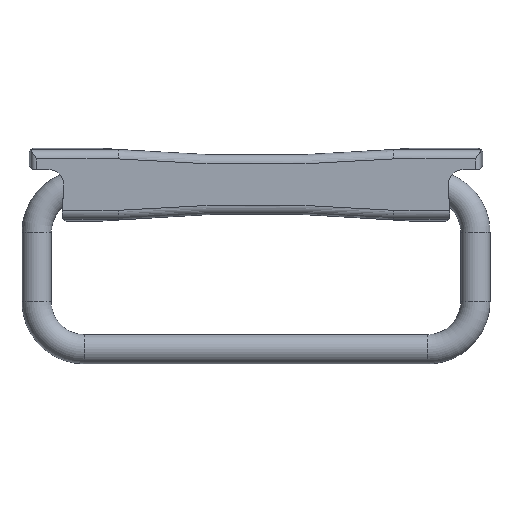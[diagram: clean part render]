
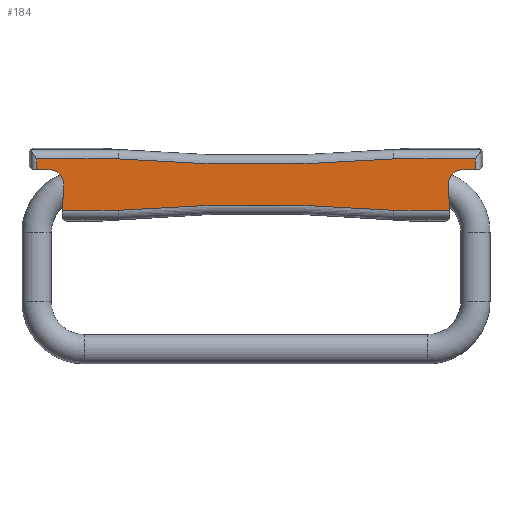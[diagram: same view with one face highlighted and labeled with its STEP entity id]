
A CAD part, top view. The second image highlights one B-rep face of the part: STEP entity #184.
In plain terms, the highlighted planar face has unit normal (0, 0, 1).
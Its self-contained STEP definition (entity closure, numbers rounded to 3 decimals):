
#184 = ADVANCED_FACE( '', ( #269 ), #270, .T. );
#269 = FACE_OUTER_BOUND( '', #421, .T. );
#270 = PLANE( '', #422 );
#421 = EDGE_LOOP( '', ( #658, #659, #660, #661, #662, #663, #664, #665, #666, #667, #668, #669, #670, #671 ) );
#422 = AXIS2_PLACEMENT_3D( '', #672, #673, #674 );
#658 = ORIENTED_EDGE( '', *, *, #1121, .T. );
#659 = ORIENTED_EDGE( '', *, *, #1124, .F. );
#660 = ORIENTED_EDGE( '', *, *, #1105, .T. );
#661 = ORIENTED_EDGE( '', *, *, #1104, .F. );
#662 = ORIENTED_EDGE( '', *, *, #1119, .T. );
#663 = ORIENTED_EDGE( '', *, *, #1125, .F. );
#664 = ORIENTED_EDGE( '', *, *, #1126, .T. );
#665 = ORIENTED_EDGE( '', *, *, #1127, .F. );
#666 = ORIENTED_EDGE( '', *, *, #1128, .T. );
#667 = ORIENTED_EDGE( '', *, *, #1129, .F. );
#668 = ORIENTED_EDGE( '', *, *, #1130, .T. );
#669 = ORIENTED_EDGE( '', *, *, #1087, .T. );
#670 = ORIENTED_EDGE( '', *, *, #1131, .T. );
#671 = ORIENTED_EDGE( '', *, *, #1080, .F. );
#672 = CARTESIAN_POINT( '', ( -60.5, -4.4, 16. ) );
#673 = DIRECTION( '', ( 0., 0., 1. ) );
#674 = DIRECTION( '', ( 1., 0., 0. ) );
#1080 = EDGE_CURVE( '', #1256, #1248, #1258, .T. );
#1087 = EDGE_CURVE( '', #1272, #1269, #1273, .T. );
#1104 = EDGE_CURVE( '', #1302, #1297, #1304, .T. );
#1105 = EDGE_CURVE( '', #1305, #1297, #1306, .T. );
#1119 = EDGE_CURVE( '', #1302, #1328, #1330, .T. );
#1121 = EDGE_CURVE( '', #1256, #1332, #1334, .T. );
#1124 = EDGE_CURVE( '', #1305, #1332, #1338, .T. );
#1125 = EDGE_CURVE( '', #1339, #1328, #1340, .T. );
#1126 = EDGE_CURVE( '', #1339, #1341, #1342, .T. );
#1127 = EDGE_CURVE( '', #1343, #1341, #1344, .T. );
#1128 = EDGE_CURVE( '', #1343, #1345, #1346, .T. );
#1129 = EDGE_CURVE( '', #1347, #1345, #1348, .T. );
#1130 = EDGE_CURVE( '', #1347, #1272, #1349, .T. );
#1131 = EDGE_CURVE( '', #1269, #1248, #1350, .T. );
#1248 = VERTEX_POINT( '', #1621 );
#1256 = VERTEX_POINT( '', #1650 );
#1258 = CIRCLE( '', #1667, 465.75 );
#1269 = VERTEX_POINT( '', #1683 );
#1272 = VERTEX_POINT( '', #1697 );
#1273 = LINE( '', #1698, #1699 );
#1297 = VERTEX_POINT( '', #1751 );
#1302 = VERTEX_POINT( '', #1776 );
#1304 = CIRCLE( '', #1779, 4.034 );
#1305 = VERTEX_POINT( '', #1780 );
#1306 = LINE( '', #1781, #1782 );
#1328 = VERTEX_POINT( '', #1862 );
#1330 = LINE( '', #1864, #1865 );
#1332 = VERTEX_POINT( '', #1867 );
#1334 = LINE( '', #1880, #1881 );
#1338 = LINE( '', #1886, #1887 );
#1339 = VERTEX_POINT( '', #1888 );
#1340 = LINE( '', #1889, #1890 );
#1341 = VERTEX_POINT( '', #1891 );
#1342 = CIRCLE( '', #1892, 465.75 );
#1343 = VERTEX_POINT( '', #1893 );
#1344 = LINE( '', #1894, #1895 );
#1345 = VERTEX_POINT( '', #1896 );
#1346 = LINE( '', #1897, #1898 );
#1347 = VERTEX_POINT( '', #1899 );
#1348 = CIRCLE( '', #1900, 4.034 );
#1349 = LINE( '', #1901, #1902 );
#1350 = LINE( '', #1903, #1904 );
#1621 = CARTESIAN_POINT( '', ( 37.684, -2.973, 16. ) );
#1650 = CARTESIAN_POINT( '', ( -37.684, -2.973, 16. ) );
#1667 = AXIS2_PLACEMENT_3D( '', #2160, #2161, #2162 );
#1683 = CARTESIAN_POINT( '', ( 59.993, -2.973, 16. ) );
#1697 = CARTESIAN_POINT( '', ( 59.993, -5.9, 16. ) );
#1698 = CARTESIAN_POINT( '', ( 59.993, -20., 16. ) );
#1699 = VECTOR( '', #2171, 1000. );
#1751 = CARTESIAN_POINT( '', ( -56.648, -5.9, 16. ) );
#1776 = CARTESIAN_POINT( '', ( -52.618, -10.119, 16. ) );
#1779 = AXIS2_PLACEMENT_3D( '', #2198, #2199, #2200 );
#1780 = CARTESIAN_POINT( '', ( -59.993, -5.9, 16. ) );
#1781 = CARTESIAN_POINT( '', ( -60.5, -5.9, 16. ) );
#1782 = VECTOR( '', #2201, 1000. );
#1862 = CARTESIAN_POINT( '', ( -52.934, -17.027, 16. ) );
#1864 = CARTESIAN_POINT( '', ( -52.618, -10.119, 16. ) );
#1865 = VECTOR( '', #2216, 1000. );
#1867 = CARTESIAN_POINT( '', ( -59.993, -2.973, 16. ) );
#1880 = CARTESIAN_POINT( '', ( 62.5, -2.973, 16. ) );
#1881 = VECTOR( '', #2217, 1000. );
#1886 = CARTESIAN_POINT( '', ( -59.993, -20., 16. ) );
#1887 = VECTOR( '', #2222, 1000. );
#1888 = CARTESIAN_POINT( '', ( -37.684, -17.027, 16. ) );
#1889 = CARTESIAN_POINT( '', ( 62.5, -17.027, 16. ) );
#1890 = VECTOR( '', #2223, 1000. );
#1891 = CARTESIAN_POINT( '', ( 37.684, -17.027, 16. ) );
#1892 = AXIS2_PLACEMENT_3D( '', #2224, #2225, #2226 );
#1893 = CARTESIAN_POINT( '', ( 52.934, -17.027, 16. ) );
#1894 = CARTESIAN_POINT( '', ( 62.5, -17.027, 16. ) );
#1895 = VECTOR( '', #2227, 1000. );
#1896 = CARTESIAN_POINT( '', ( 52.618, -10.119, 16. ) );
#1897 = CARTESIAN_POINT( '', ( 52.998, -18.433, 16. ) );
#1898 = VECTOR( '', #2228, 1000. );
#1899 = CARTESIAN_POINT( '', ( 56.648, -5.9, 16. ) );
#1900 = AXIS2_PLACEMENT_3D( '', #2229, #2230, #2231 );
#1901 = CARTESIAN_POINT( '', ( 56.648, -5.9, 16. ) );
#1902 = VECTOR( '', #2232, 1000. );
#1903 = CARTESIAN_POINT( '', ( 62.5, -2.973, 16. ) );
#1904 = VECTOR( '', #2233, 1000. );
#2160 = CARTESIAN_POINT( '', ( 0., 461.25, 16. ) );
#2161 = DIRECTION( '', ( 0., 0., 1. ) );
#2162 = DIRECTION( '', ( 1., 0., 0. ) );
#2171 = DIRECTION( '', ( 0., 1., 0. ) );
#2198 = CARTESIAN_POINT( '', ( -56.648, -9.934, 16. ) );
#2199 = DIRECTION( '', ( 0., 0., 1. ) );
#2200 = DIRECTION( '', ( 1., 0., 0. ) );
#2201 = DIRECTION( '', ( 1., 0., 0. ) );
#2216 = DIRECTION( '', ( -0.046, -0.999, 0. ) );
#2217 = DIRECTION( '', ( -1., 0., 0. ) );
#2222 = DIRECTION( '', ( 0., 1., 0. ) );
#2223 = DIRECTION( '', ( -1., 0., 0. ) );
#2224 = CARTESIAN_POINT( '', ( 0., -481.25, 16. ) );
#2225 = DIRECTION( '', ( 0., 0., -1. ) );
#2226 = DIRECTION( '', ( -1., 0., 0. ) );
#2227 = DIRECTION( '', ( -1., 0., 0. ) );
#2228 = DIRECTION( '', ( -0.046, 0.999, 0. ) );
#2229 = CARTESIAN_POINT( '', ( 56.648, -9.934, 16. ) );
#2230 = DIRECTION( '', ( 0., 0., 1. ) );
#2231 = DIRECTION( '', ( 1., 0., 0. ) );
#2232 = DIRECTION( '', ( 1., 0., 0. ) );
#2233 = DIRECTION( '', ( -1., 0., 0. ) );
